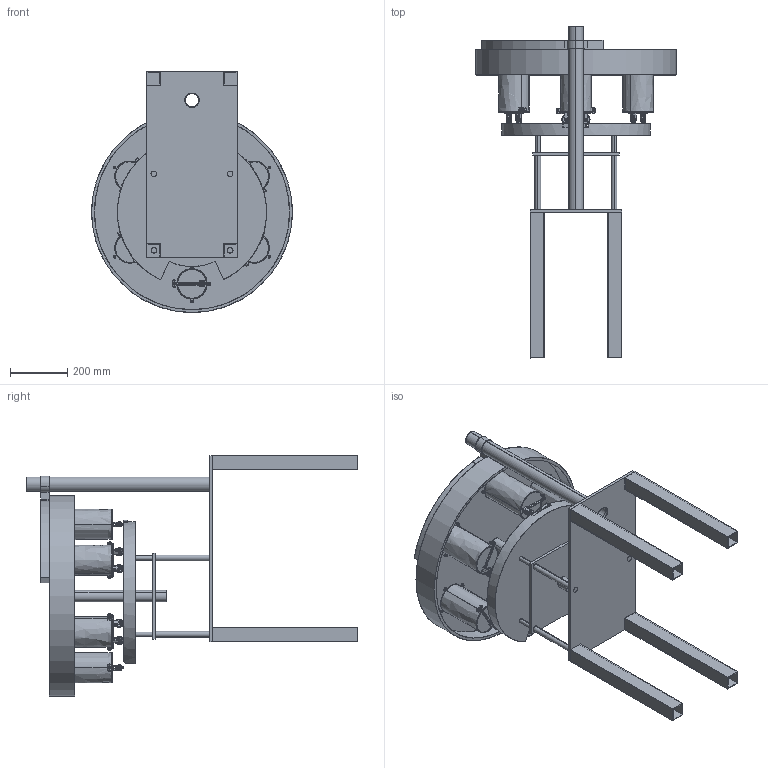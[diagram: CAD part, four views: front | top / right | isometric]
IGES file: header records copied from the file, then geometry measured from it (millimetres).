
Start section: SolidWorks IGES file using analytic representation for surfaces
Global section: file name: C:\Users\sebas\Documents\SOLIDWORKSComposer\TESIS\3. Dosificadora\IGS\Dosificador Volumétrico.IGS; native system: SolidWorks 2022; preprocessor: SolidWorks 2022; author: sebas; date: 220619.070548; units: millimetre
Bounding box: 700 x 1156.49 x 840.01 mm (x, y, z)
Surface area: 4411401.1 mm2 (no closed solid volume)
Topology: 0 solids, 0 shells, 1868 faces, 26140 edges, 26096 vertices
Faces by surface type: bspline 935, revolution 933
